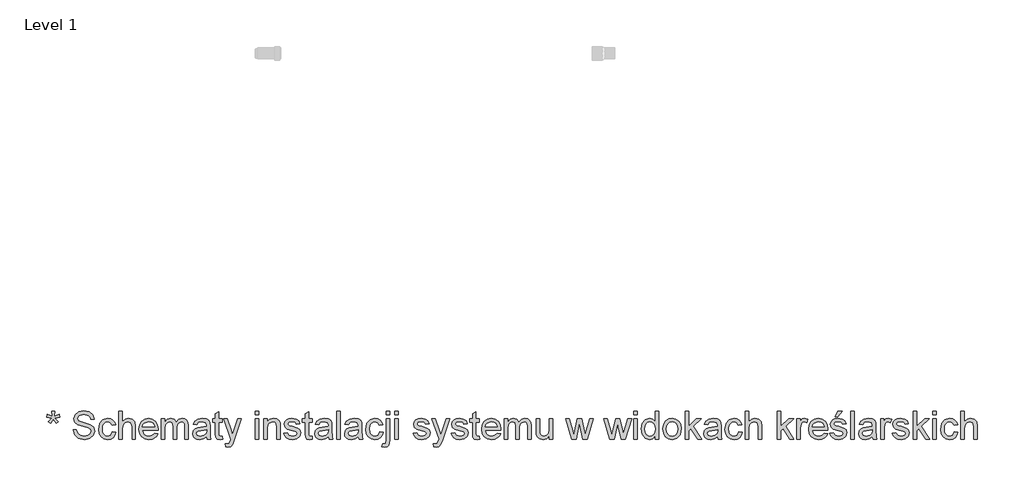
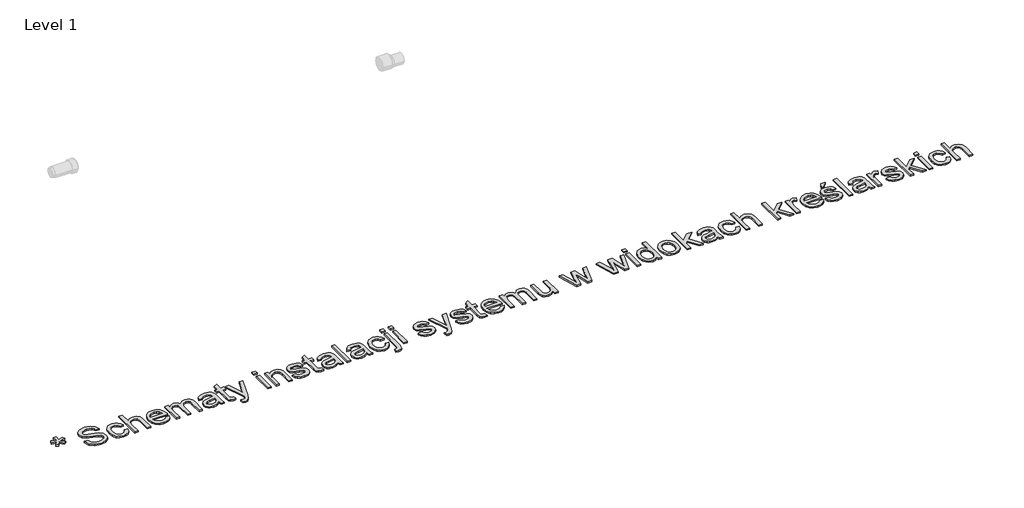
# One storey, part 2 of 3: 1 proxy.
"""IFC4 building model written with IfcOpenShell, lengths in millimetres."""

from ifc_helpers import new_model, si_unit, origin, origin_with_axes, place, context, project, spatial, polyline, outline, extrude, element, save

model = new_model("IFC4")

# Units and contexts
model_context = context("Model", 3, world=origin())
ifc_project = project(units=[si_unit("LENGTHUNIT", "METRE", prefix="MILLI")], contexts=[model_context])

# Site, building, storey
site = spatial("IfcSite", under=ifc_project)
building = spatial("IfcBuilding", under=site)
storey = spatial("IfcBuildingStorey", under=building, Name="Level 1", Elevation=0.0)

# Proxy
placement = place(None, origin())
element("IfcBuildingElementProxy", 1, Name="100mm Arial", ObjectType="100mm Arial", at=placement, inside=storey, context=model_context, shape_type="SweptSolid", body=[
    extrude(outline(polyline([(-18147.9582357, -3129.486268), (-18144.5982468, -3119.6270305), (-18127.6020986, -3126.3715338), (-18129.1226775, -3109.08108), (-18118.1352686, -3109.08108), (-18119.8765767, -3126.2979574), (-18102.6351739, -3119.6270305), (-18099.2997104, -3129.486268), (-18117.3749791, -3133.2141389), (-18104.8915168, -3145.7957031), (-18113.6225828, -3151.4610859), (-18123.8251768, -3137.1382135), (-18133.512736, -3151.4610859), (-18142.1702256, -3145.7957031), (-18130.0301198, -3133.2141389), (-18147.9582357, -3129.486268)])), origin_with_axes(), (0.0, 0.0, 1.0), 5.0),
    extrude(outline(polyline([(-18052.2108151, -3175.0055336), (-18039.6537763, -3175.0055336), (-18035.6070744, -3187.5748351), (-18025.7233114, -3195.5210862), (-18010.6646751, -3198.5499812), (-17997.5435506, -3196.2568501), (-17989.070002, -3189.9538053), (-17986.2863615, -3181.5293076), (-17988.3710262, -3173.6934211), (-17996.9058885, -3167.9912502), (-18015.1896236, -3163.1965215), (-18034.8713104, -3157.0038413), (-18045.552151, -3147.6596386), (-18049.0715554, -3135.1761762), (-18044.7182851, -3120.9636685), (-18032.0018308, -3110.9327527), (-18013.3870018, -3107.5114502), (-17993.5213741, -3111.0921683), (-17980.2776223, -3121.6135933), (-17975.2989526, -3137.3344172), (-17987.8559914, -3137.3344172), (-17990.1613852, -3129.8418873), (-17994.9683766, -3124.434022), (-18012.8964925, -3120.0684889), (-18030.8736593, -3124.384971), (-18036.5145166, -3134.8082942), (-18032.5168656, -3143.5148348), (-18012.0135757, -3150.5291181), (-17989.7935032, -3156.832163), (-17977.6411346, -3167.0102315), (-17973.7293228, -3181.2104765), (-17978.2297458, -3196.2323247), (-17991.1791921, -3207.1952081), (-18010.1741658, -3211.10702), (-18032.6027047, -3206.8886398), (-18046.790687, -3194.1844482), (-18052.2108151, -3175.0055336)])), origin_with_axes(), (0.0, 0.0, 1.0), 5.0),
    extrude(outline(polyline([(-17909.3744991, -3182.8536828), (-17896.8174603, -3184.4233126), (-17900.3184706, -3195.5915969), (-17906.897427, -3204.031423), (-17915.9350613, -3209.3381208), (-17926.8121056, -3211.10702), (-17940.1692878, -3208.639145), (-17950.6140707, -3201.2355198), (-17957.3555083, -3189.221107), (-17959.6026541, -3172.9208689), (-17955.7644187, -3152.0619598), (-17944.0657712, -3138.6587924), (-17926.9837839, -3134.1951576), (-17916.373454, -3135.7279992), (-17907.8907084, -3140.3265241), (-17901.805327, -3147.7454777), (-17898.3870901, -3157.7396052), (-17910.9441289, -3159.3092351), (-17916.7689272, -3149.9037188), (-17926.885682, -3146.7521963), (-17935.0005457, -3148.3034321), (-17941.4415463, -3152.9571393), (-17945.6445981, -3160.9647041), (-17947.0456154, -3172.5775124), (-17945.6752549, -3184.3466705), (-17941.5641737, -3192.3818265), (-17935.239669, -3197.0079425), (-17927.2290386, -3198.5499812), (-17915.3955011, -3194.699483), (-17909.3744991, -3182.8536828)])), origin_with_axes(), (0.0, 0.0, 1.0), 5.0),
    extrude(outline(polyline([(-17885.8300514, -3209.5373902), (-17885.8300514, -3109.08108), (-17873.2730126, -3109.08108), (-17873.2730126, -3146.0164323), (-17863.4812202, -3137.1504763), (-17851.4208221, -3134.1951576), (-17837.318679, -3137.4202564), (-17828.7592912, -3146.3352634), (-17826.1841172, -3162.8409022), (-17826.1841172, -3209.5373902), (-17838.741156, -3209.5373902), (-17838.741156, -3164.140752), (-17842.738807, -3150.8970001), (-17854.0695725, -3146.7521963), (-17864.3580056, -3149.5480995), (-17871.2251362, -3157.1264686), (-17873.2730126, -3170.3456949), (-17873.2730126, -3209.5373902), (-17885.8300514, -3209.5373902)])), origin_with_axes(), (0.0, 0.0, 1.0), 5.0),
    extrude(outline(polyline([(-17757.2675568, -3187.5625723), (-17744.9557727, -3189.1322022), (-17749.3918164, -3198.4089598), (-17756.4704791, -3205.3435354), (-17766.0323453, -3209.6661489), (-17777.9179995, -3211.10702), (-17792.6516734, -3208.6207509), (-17803.9885702, -3201.1619434), (-17811.2174514, -3189.2149756), (-17813.6270785, -3173.2642254), (-17811.1929259, -3156.7769807), (-17803.8904683, -3144.4468025), (-17792.7068557, -3136.7580688), (-17778.629238, -3134.1951576), (-17764.990013, -3136.7519374), (-17754.0915089, -3144.422277), (-17746.9454012, -3156.7279298), (-17744.5633652, -3173.190649), (-17744.6369416, -3176.5751634), (-17801.0700397, -3176.5751634), (-17798.8964702, -3185.9745484), (-17793.8472899, -3192.8845985), (-17786.5601607, -3197.1336356), (-17777.6727448, -3198.5499812), (-17765.3609607, -3195.9257563), (-17757.2675568, -3187.5625723)]), holes=[polyline([(-17801.0700397, -3164.0181246), (-17757.120404, -3164.0181246), (-17762.1481246, -3152.6383082), (-17769.4689763, -3148.2237243), (-17778.6782889, -3146.7521963), (-17794.1415954, -3151.4488231), (-17799.0068348, -3156.9394619), (-17801.0700397, -3164.0181246)])]), origin_with_axes(), (0.0, 0.0, 1.0), 5.0),
    extrude(outline(polyline([(-17732.0063265, -3209.5373902), (-17732.0063265, -3135.7647874), (-17719.4492877, -3135.7647874), (-17719.4492877, -3147.9048932), (-17710.8163235, -3137.9598166), (-17698.5290649, -3134.1951576), (-17685.9475007, -3138.033393), (-17679.0313192, -3148.78781), (-17669.2333954, -3137.8433207), (-17656.8602976, -3134.1951576), (-17647.4210587, -3135.7126708), (-17640.4404979, -3140.2652105), (-17636.1270815, -3147.975404), (-17634.689276, -3158.9658786), (-17634.689276, -3209.5373902), (-17647.2463148, -3209.5373902), (-17647.2463148, -3164.3614812), (-17648.4112744, -3153.8768443), (-17652.6296546, -3148.7142336), (-17659.8033535, -3146.7521963), (-17672.1519258, -3151.7799169), (-17675.8399429, -3158.3220851), (-17677.0692819, -3167.8931483), (-17677.0692819, -3209.5373902), (-17689.6263206, -3209.5373902), (-17689.6263206, -3162.9635296), (-17692.5325884, -3150.7988983), (-17702.0607321, -3146.7521963), (-17711.3558838, -3149.4499976), (-17717.5363013, -3157.3471978), (-17719.4492877, -3172.3322577), (-17719.4492877, -3209.5373902), (-17732.0063265, -3209.5373902)])), origin_with_axes(), (0.0, 0.0, 1.0), 5.0),
    extrude(outline(polyline([(-17568.7648225, -3200.1196111), (-17580.9417165, -3208.6299479), (-17594.3939348, -3211.10702), (-17604.8877687, -3209.6170979), (-17612.628619, -3205.1473317), (-17617.4018879, -3198.3599089), (-17618.9929775, -3189.9170171), (-17616.5894818, -3179.9842032), (-17610.2741743, -3172.7737161), (-17601.4817946, -3168.6534378), (-17590.617013, -3166.7649769), (-17568.8383989, -3162.4484948), (-17568.7648225, -3159.6525916), (-17572.2229132, -3150.3819653), (-17586.1043272, -3146.7521963), (-17598.8085187, -3149.1679548), (-17604.8663089, -3157.7396052), (-17617.4233477, -3156.1699754), (-17611.9909569, -3143.9072422), (-17601.0525989, -3136.7212806), (-17584.4856464, -3134.1951576), (-17569.2675945, -3136.426975), (-17560.6714186, -3142.0310441), (-17556.8209204, -3150.5536436), (-17556.2077837, -3161.5410525), (-17556.2077837, -3177.1637746), (-17555.5701216, -3198.9791769), (-17553.068524, -3209.5373902), (-17565.6255628, -3209.5373902), (-17568.7648225, -3200.1196111)]), holes=[polyline([(-17568.7648225, -3175.0055336), (-17589.0228577, -3178.8560318), (-17599.8263256, -3180.8916455), (-17604.7191561, -3184.2025834), (-17606.4359388, -3189.0341003), (-17602.6958052, -3195.8276545), (-17591.720659, -3198.5499812), (-17579.0164674, -3195.5456116), (-17570.8249616, -3188.2738108), (-17568.8383989, -3178.5617262), (-17568.7648225, -3175.0055336)])]), origin_with_axes(), (0.0, 0.0, 1.0), 5.0),
    extrude(outline(polyline([(-17512.258148, -3199.065016), (-17510.6885182, -3209.9052722), (-17520.0817718, -3211.10702), (-17530.6031968, -3209.0223554), (-17535.8516466, -3203.5531764), (-17537.3722255, -3189.3038804), (-17537.3722255, -3148.3218262), (-17546.7900046, -3148.3218262), (-17546.7900046, -3135.7647874), (-17537.3722255, -3135.7647874), (-17537.3722255, -3117.8366715), (-17524.8151868, -3110.4545061), (-17524.8151868, -3135.7647874), (-17512.258148, -3135.7647874), (-17512.258148, -3148.3218262), (-17524.8151868, -3148.3218262), (-17524.8151868, -3188.9359984), (-17524.1529992, -3195.4107216), (-17522.0070209, -3197.7038527), (-17517.727327, -3198.5499812), (-17512.258148, -3199.065016)])), origin_with_axes(), (0.0, 0.0, 1.0), 5.0),
    extrude(outline(polyline([(-17499.7011092, -3237.7907274), (-17501.2707391, -3225.6996725), (-17494.8941178, -3226.8033185), (-17488.9344295, -3225.4176296), (-17485.280135, -3221.5548687), (-17481.8465697, -3212.3087679), (-17480.8655511, -3209.26761), (-17507.5492585, -3135.7647874), (-17494.3055066, -3135.7647874), (-17480.1543126, -3176.7223162), (-17475.2246938, -3193.1053277), (-17470.2950751, -3178.6353026), (-17455.7514736, -3135.7647874), (-17442.6058236, -3135.7647874), (-17468.2839869, -3211.3032237), (-17474.9549137, -3227.6862353), (-17482.2389772, -3236.5399286), (-17492.0246383, -3239.3603572), (-17499.7011092, -3237.7907274)])), origin_with_axes(), (0.0, 0.0, 1.0), 5.0),
    extrude(outline(polyline([(-17392.9662797, -3121.6381188), (-17392.9662797, -3109.08108), (-17380.4092409, -3109.08108), (-17380.4092409, -3121.6381188), (-17392.9662797, -3121.6381188)])), origin_with_axes(), (0.0, 0.0, 1.0), 5.0),
    extrude(outline(polyline([(-17392.9662797, -3209.5373902), (-17392.9662797, -3135.7647874), (-17380.4092409, -3135.7647874), (-17380.4092409, -3209.5373902), (-17392.9662797, -3209.5373902)])), origin_with_axes(), (0.0, 0.0, 1.0), 5.0),
    extrude(outline(polyline([(-17361.5736828, -3209.5373902), (-17361.5736828, -3135.7647874), (-17349.016644, -3135.7647874), (-17349.016644, -3146.0654833), (-17339.4149239, -3137.162739), (-17326.3060622, -3134.1951576), (-17314.4479992, -3136.5863905), (-17306.3545953, -3142.8649099), (-17302.5899362, -3152.098748), (-17301.9277486, -3164.2388538), (-17301.9277486, -3209.5373902), (-17314.4847874, -3209.5373902), (-17314.4847874, -3165.931111), (-17315.9317899, -3154.8210748), (-17321.0453497, -3148.9472256), (-17329.6660511, -3146.7521963), (-17343.2899476, -3151.6818151), (-17347.5849699, -3158.8248571), (-17349.016644, -3170.3947459), (-17349.016644, -3209.5373902), (-17361.5736828, -3209.5373902)])), origin_with_axes(), (0.0, 0.0, 1.0), 5.0),
    extrude(outline(polyline([(-17289.3707099, -3187.5625723), (-17276.8136711, -3185.9929425), (-17271.0011356, -3195.3126197), (-17257.6838073, -3198.5499812), (-17244.8815139, -3195.5823998), (-17240.7121846, -3188.6171674), (-17244.9060394, -3182.9763101), (-17257.8309601, -3179.395592), (-17276.7400947, -3173.2519627), (-17284.9929141, -3166.0782638), (-17287.80108, -3155.9492462), (-17285.5447371, -3146.5927808), (-17279.3888451, -3139.4436074), (-17271.4058058, -3135.7279992), (-17260.6023378, -3134.1951576), (-17245.3229723, -3136.6599669), (-17235.6108876, -3143.3308938), (-17231.2944056, -3154.6003456), (-17243.8514443, -3156.1699754), (-17248.5725966, -3149.2415312), (-17259.6213192, -3146.7521963), (-17271.6387977, -3149.1311666), (-17275.2440413, -3154.673922), (-17273.7479878, -3158.3282164), (-17269.0636237, -3161.0995941), (-17258.2478931, -3163.77287), (-17239.8170051, -3169.6835074), (-17231.2576174, -3176.3789597), (-17228.1551459, -3187.2927922), (-17231.7971776, -3199.3102707), (-17242.30634, -3208.029074), (-17257.8554856, -3211.10702), (-17270.5167576, -3209.6232293), (-17279.7567271, -3205.1718572), (-17285.9248818, -3197.8019545), (-17289.3707099, -3187.5625723)])), origin_with_axes(), (0.0, 0.0, 1.0), 5.0),
    extrude(outline(polyline([(-17187.3447699, -3199.065016), (-17185.77514, -3209.9052722), (-17195.1683936, -3211.10702), (-17205.6898187, -3209.0223554), (-17210.9382685, -3203.5531764), (-17212.4588474, -3189.3038804), (-17212.4588474, -3148.3218262), (-17221.8766265, -3148.3218262), (-17221.8766265, -3135.7647874), (-17212.4588474, -3135.7647874), (-17212.4588474, -3117.8366715), (-17199.9018086, -3110.4545061), (-17199.9018086, -3135.7647874), (-17187.3447699, -3135.7647874), (-17187.3447699, -3148.3218262), (-17199.9018086, -3148.3218262), (-17199.9018086, -3188.9359984), (-17199.239621, -3195.4107216), (-17197.0936427, -3197.7038527), (-17192.8139489, -3198.5499812), (-17187.3447699, -3199.065016)])), origin_with_axes(), (0.0, 0.0, 1.0), 5.0),
    extrude(outline(polyline([(-17127.6988357, -3200.1196111), (-17139.8757298, -3208.6299479), (-17153.3279481, -3211.10702), (-17163.821782, -3209.6170979), (-17171.5626323, -3205.1473317), (-17176.3359012, -3198.3599089), (-17177.9269908, -3189.9170171), (-17175.5234951, -3179.9842032), (-17169.2081875, -3172.7737161), (-17160.4158078, -3168.6534378), (-17149.5510262, -3166.7649769), (-17127.7724121, -3162.4484948), (-17127.6988357, -3159.6525916), (-17131.1569265, -3150.3819653), (-17145.0383404, -3146.7521963), (-17157.742532, -3149.1679548), (-17163.8003222, -3157.7396052), (-17176.3573609, -3156.1699754), (-17170.9249702, -3143.9072422), (-17159.9866122, -3136.7212806), (-17143.4196596, -3134.1951576), (-17128.2016078, -3136.426975), (-17119.6054318, -3142.0310441), (-17115.7549336, -3150.5536436), (-17115.141797, -3161.5410525), (-17115.141797, -3177.1637746), (-17114.5041348, -3198.9791769), (-17112.0025373, -3209.5373902), (-17124.559576, -3209.5373902), (-17127.6988357, -3200.1196111)]), holes=[polyline([(-17127.6988357, -3175.0055336), (-17147.9568709, -3178.8560318), (-17158.7603388, -3180.8916455), (-17163.6531694, -3184.2025834), (-17165.369952, -3189.0341003), (-17161.6298184, -3195.8276545), (-17150.6546722, -3198.5499812), (-17137.9504807, -3195.5456116), (-17129.7589749, -3188.2738108), (-17127.7724121, -3178.5617262), (-17127.6988357, -3175.0055336)])]), origin_with_axes(), (0.0, 0.0, 1.0), 5.0),
    extrude(outline(polyline([(-17097.8758686, -3209.5373902), (-17097.8758686, -3109.08108), (-17085.3188299, -3109.08108), (-17085.3188299, -3209.5373902), (-17097.8758686, -3209.5373902)])), origin_with_axes(), (0.0, 0.0, 1.0), 5.0),
    extrude(outline(polyline([(-17019.3943763, -3200.1196111), (-17031.5712704, -3208.6299479), (-17045.0234887, -3211.10702), (-17055.5173226, -3209.6170979), (-17063.2581729, -3205.1473317), (-17068.0314418, -3198.3599089), (-17069.6225314, -3189.9170171), (-17067.2190357, -3179.9842032), (-17060.9037281, -3172.7737161), (-17052.1113484, -3168.6534378), (-17041.2465669, -3166.7649769), (-17019.4679527, -3162.4484948), (-17019.3943763, -3159.6525916), (-17022.8524671, -3150.3819653), (-17036.733881, -3146.7521963), (-17049.4380726, -3149.1679548), (-17055.4958628, -3157.7396052), (-17068.0529016, -3156.1699754), (-17062.6205108, -3143.9072422), (-17051.6821528, -3136.7212806), (-17035.1152003, -3134.1951576), (-17019.8971484, -3136.426975), (-17011.3009724, -3142.0310441), (-17007.4504742, -3150.5536436), (-17006.8373376, -3161.5410525), (-17006.8373376, -3177.1637746), (-17006.1996754, -3198.9791769), (-17003.6980779, -3209.5373902), (-17016.2551166, -3209.5373902), (-17019.3943763, -3200.1196111)]), holes=[polyline([(-17019.3943763, -3175.0055336), (-17039.6524115, -3178.8560318), (-17050.4558795, -3180.8916455), (-17055.34871, -3184.2025834), (-17057.0654926, -3189.0341003), (-17053.325359, -3195.8276545), (-17042.3502128, -3198.5499812), (-17029.6460213, -3195.5456116), (-17021.4545155, -3188.2738108), (-17019.4679527, -3178.5617262), (-17019.3943763, -3175.0055336)])]), origin_with_axes(), (0.0, 0.0, 1.0), 5.0),
    extrude(outline(polyline([(-16942.4825139, -3182.8536828), (-16929.9254751, -3184.4233126), (-16933.4264854, -3195.5915969), (-16940.0054418, -3204.031423), (-16949.0430761, -3209.3381208), (-16959.9201205, -3211.10702), (-16973.2773026, -3208.639145), (-16983.7220855, -3201.2355198), (-16990.4635231, -3189.221107), (-16992.710669, -3172.9208689), (-16988.8724335, -3152.0619598), (-16977.173786, -3138.6587924), (-16960.0917987, -3134.1951576), (-16949.4814688, -3135.7279992), (-16940.9987232, -3140.3265241), (-16934.9133418, -3147.7454777), (-16931.495105, -3157.7396052), (-16944.0521437, -3159.3092351), (-16949.876942, -3149.9037188), (-16959.9936969, -3146.7521963), (-16968.1085605, -3148.3034321), (-16974.5495611, -3152.9571393), (-16978.7526129, -3160.9647041), (-16980.1536302, -3172.5775124), (-16978.7832698, -3184.3466705), (-16974.6721885, -3192.3818265), (-16968.3476838, -3197.0079425), (-16960.3370534, -3198.5499812), (-16948.5035159, -3194.699483), (-16942.4825139, -3182.8536828)])), origin_with_axes(), (0.0, 0.0, 1.0), 5.0),
    extrude(outline(polyline([(-16918.9380662, -3121.6381188), (-16918.9380662, -3109.08108), (-16906.3810274, -3109.08108), (-16906.3810274, -3121.6381188), (-16918.9380662, -3121.6381188)])), origin_with_axes(), (0.0, 0.0, 1.0), 5.0),
    extrude(outline(polyline([(-16934.756992, -3237.8397783), (-16932.1082416, -3225.8958762), (-16926.344757, -3226.8033185), (-16920.7652134, -3224.3139836), (-16918.9380662, -3211.8673095), (-16918.9380662, -3135.7647874), (-16906.3810274, -3135.7647874), (-16906.3810274, -3213.4859902), (-16909.93722, -3232.4196503), (-16915.9459593, -3237.6251805), (-16924.9468054, -3239.3603572), (-16934.756992, -3237.8397783)])), origin_with_axes(), (0.0, 0.0, 1.0), 5.0),
    extrude(outline(polyline([(-16887.5454693, -3121.6381188), (-16887.5454693, -3109.08108), (-16874.9884305, -3109.08108), (-16874.9884305, -3121.6381188), (-16887.5454693, -3121.6381188)])), origin_with_axes(), (0.0, 0.0, 1.0), 5.0),
    extrude(outline(polyline([(-16887.5454693, -3209.5373902), (-16887.5454693, -3135.7647874), (-16874.9884305, -3135.7647874), (-16874.9884305, -3209.5373902), (-16887.5454693, -3209.5373902)])), origin_with_axes(), (0.0, 0.0, 1.0), 5.0),
    extrude(outline(polyline([(-16821.6210157, -3187.5625723), (-16809.063977, -3185.9929425), (-16803.2514414, -3195.3126197), (-16789.9341132, -3198.5499812), (-16777.1318198, -3195.5823998), (-16772.9624905, -3188.6171674), (-16777.1563452, -3182.9763101), (-16790.081266, -3179.395592), (-16808.9904006, -3173.2519627), (-16817.24322, -3166.0782638), (-16820.0513859, -3155.9492462), (-16817.795043, -3146.5927808), (-16811.6391509, -3139.4436074), (-16803.6561116, -3135.7279992), (-16792.8526437, -3134.1951576), (-16777.5732782, -3136.6599669), (-16767.8611935, -3143.3308938), (-16763.5447114, -3154.6003456), (-16776.1017502, -3156.1699754), (-16780.8229025, -3149.2415312), (-16791.8716251, -3146.7521963), (-16803.8891036, -3149.1311666), (-16807.4943471, -3154.673922), (-16805.9982937, -3158.3282164), (-16801.3139296, -3161.0995941), (-16790.4981989, -3163.77287), (-16772.067311, -3169.6835074), (-16763.5079232, -3176.3789597), (-16760.4054517, -3187.2927922), (-16764.0474835, -3199.3102707), (-16774.5566458, -3208.029074), (-16790.1057915, -3211.10702), (-16802.7670635, -3209.6232293), (-16812.0070329, -3205.1718572), (-16818.1751877, -3197.8019545), (-16821.6210157, -3187.5625723)])), origin_with_axes(), (0.0, 0.0, 1.0), 5.0),
    extrude(outline(polyline([(-16746.2787831, -3237.7907274), (-16747.848413, -3225.6996725), (-16741.4717917, -3226.8033185), (-16735.5121034, -3225.4176296), (-16731.8578089, -3221.5548687), (-16728.4242436, -3212.3087679), (-16727.443225, -3209.26761), (-16754.1269324, -3135.7647874), (-16740.8831805, -3135.7647874), (-16726.7319864, -3176.7223162), (-16721.8023677, -3193.1053277), (-16716.872749, -3178.6353026), (-16702.3291474, -3135.7647874), (-16689.1834975, -3135.7647874), (-16714.8616607, -3211.3032237), (-16721.5325876, -3227.6862353), (-16728.8166511, -3236.5399286), (-16738.6023122, -3239.3603572), (-16746.2787831, -3237.7907274)])), origin_with_axes(), (0.0, 0.0, 1.0), 5.0),
    extrude(outline(polyline([(-16683.4935893, -3187.5625723), (-16670.9365505, -3185.9929425), (-16665.124015, -3195.3126197), (-16651.8066868, -3198.5499812), (-16639.0043933, -3195.5823998), (-16634.835064, -3188.6171674), (-16639.0289188, -3182.9763101), (-16651.9538396, -3179.395592), (-16670.8629741, -3173.2519627), (-16679.1157935, -3166.0782638), (-16681.9239594, -3155.9492462), (-16679.6676165, -3146.5927808), (-16673.5117245, -3139.4436074), (-16665.5286852, -3135.7279992), (-16654.7252173, -3134.1951576), (-16639.4458517, -3136.6599669), (-16629.733767, -3143.3308938), (-16625.417285, -3154.6003456), (-16637.9743237, -3156.1699754), (-16642.695476, -3149.2415312), (-16653.7441986, -3146.7521963), (-16665.7616771, -3149.1311666), (-16669.3669207, -3154.673922), (-16667.8708672, -3158.3282164), (-16663.1865031, -3161.0995941), (-16652.3707725, -3163.77287), (-16633.9398845, -3169.6835074), (-16625.3804968, -3176.3789597), (-16622.2780253, -3187.2927922), (-16625.920057, -3199.3102707), (-16636.4292194, -3208.029074), (-16651.978365, -3211.10702), (-16664.639637, -3209.6232293), (-16673.8796065, -3205.1718572), (-16680.0477613, -3197.8019545), (-16683.4935893, -3187.5625723)])), origin_with_axes(), (0.0, 0.0, 1.0), 5.0),
    extrude(outline(polyline([(-16581.4676493, -3199.065016), (-16579.8980194, -3209.9052722), (-16589.291273, -3211.10702), (-16599.8126981, -3209.0223554), (-16605.0611479, -3203.5531764), (-16606.5817268, -3189.3038804), (-16606.5817268, -3148.3218262), (-16615.9995059, -3148.3218262), (-16615.9995059, -3135.7647874), (-16606.5817268, -3135.7647874), (-16606.5817268, -3117.8366715), (-16594.0246881, -3110.4545061), (-16594.0246881, -3135.7647874), (-16581.4676493, -3135.7647874), (-16581.4676493, -3148.3218262), (-16594.0246881, -3148.3218262), (-16594.0246881, -3188.9359984), (-16593.3625005, -3195.4107216), (-16591.2165222, -3197.7038527), (-16586.9368283, -3198.5499812), (-16581.4676493, -3199.065016)])), origin_with_axes(), (0.0, 0.0, 1.0), 5.0),
    extrude(outline(polyline([(-16517.2599784, -3187.5625723), (-16504.9481943, -3189.1322022), (-16509.384238, -3198.4089598), (-16516.4629007, -3205.3435354), (-16526.0247669, -3209.6661489), (-16537.9104211, -3211.10702), (-16552.644095, -3208.6207509), (-16563.9809918, -3201.1619434), (-16571.209873, -3189.2149756), (-16573.6195001, -3173.2642254), (-16571.1853475, -3156.7769807), (-16563.8828899, -3144.4468025), (-16552.6992773, -3136.7580688), (-16538.6216596, -3134.1951576), (-16524.9824346, -3136.7519374), (-16514.0839305, -3144.422277), (-16506.9378227, -3156.7279298), (-16504.5557868, -3173.190649), (-16504.6293632, -3176.5751634), (-16561.0624613, -3176.5751634), (-16558.8888918, -3185.9745484), (-16553.8397114, -3192.8845985), (-16546.5525823, -3197.1336356), (-16537.6651664, -3198.5499812), (-16525.3533823, -3195.9257563), (-16517.2599784, -3187.5625723)]), holes=[polyline([(-16561.0624613, -3164.0181246), (-16517.1128256, -3164.0181246), (-16522.1405462, -3152.6383082), (-16529.4613979, -3148.2237243), (-16538.6707105, -3146.7521963), (-16554.134017, -3151.4488231), (-16558.9992564, -3156.9394619), (-16561.0624613, -3164.0181246)])]), origin_with_axes(), (0.0, 0.0, 1.0), 5.0),
    extrude(outline(polyline([(-16491.9987481, -3209.5373902), (-16491.9987481, -3135.7647874), (-16479.4417093, -3135.7647874), (-16479.4417093, -3147.9048932), (-16470.8087451, -3137.9598166), (-16458.5214865, -3134.1951576), (-16445.9399223, -3138.033393), (-16439.0237407, -3148.78781), (-16429.2258169, -3137.8433207), (-16416.8527192, -3134.1951576), (-16407.4134803, -3135.7126708), (-16400.4329195, -3140.2652105), (-16396.1195031, -3147.975404), (-16394.6816976, -3158.9658786), (-16394.6816976, -3209.5373902), (-16407.2387364, -3209.5373902), (-16407.2387364, -3164.3614812), (-16408.403696, -3153.8768443), (-16412.6220762, -3148.7142336), (-16419.7957751, -3146.7521963), (-16432.1443474, -3151.7799169), (-16435.8323644, -3158.3220851), (-16437.0617034, -3167.8931483), (-16437.0617034, -3209.5373902), (-16449.6187422, -3209.5373902), (-16449.6187422, -3162.9635296), (-16452.52501, -3150.7988983), (-16462.0531536, -3146.7521963), (-16471.3483054, -3149.4499976), (-16477.5287229, -3157.3471978), (-16479.4417093, -3172.3322577), (-16479.4417093, -3209.5373902), (-16491.9987481, -3209.5373902)])), origin_with_axes(), (0.0, 0.0, 1.0), 5.0),
    extrude(outline(polyline([(-16328.7572441, -3209.5373902), (-16328.7572441, -3196.8577241), (-16338.5919561, -3207.544696), (-16351.418775, -3211.10702), (-16363.227787, -3208.6054224), (-16371.3702418, -3202.3269031), (-16375.1103755, -3193.0808023), (-16375.8461394, -3181.4066803), (-16375.8461394, -3135.7647874), (-16363.2891007, -3135.7647874), (-16363.2891007, -3175.4960429), (-16362.5288112, -3188.2983363), (-16357.5624043, -3195.8153917), (-16348.2059389, -3198.5499812), (-16337.721302, -3195.7540781), (-16330.7928578, -3188.1389208), (-16328.7572441, -3174.1471422), (-16328.7572441, -3135.7647874), (-16316.2002053, -3135.7647874), (-16316.2002053, -3209.5373902), (-16328.7572441, -3209.5373902)])), origin_with_axes(), (0.0, 0.0, 1.0), 5.0),
    extrude(outline(polyline([(-16247.4553231, -3209.5373902), (-16269.8961248, -3135.7647874), (-16256.8485767, -3135.7647874), (-16244.1198597, -3178.8069808), (-16240.3184124, -3194.1844482), (-16237.2036782, -3179.3710666), (-16227.0746606, -3135.7647874), (-16212.1141261, -3135.7647874), (-16202.0341595, -3179.2484392), (-16199.2627818, -3192.6638693), (-16195.2896562, -3178.5126752), (-16182.5364137, -3135.7647874), (-16169.4398147, -3135.7647874), (-16192.0522947, -3209.5373902), (-16207.2335583, -3209.5373902), (-16216.8720666, -3166.2744675), (-16219.6679698, -3152.785461), (-16232.1023812, -3209.5373902), (-16247.4553231, -3209.5373902)])), origin_with_axes(), (0.0, 0.0, 1.0), 5.0),
    extrude(outline(polyline([(-16109.3278967, -3209.5373902), (-16131.7686984, -3135.7647874), (-16118.7211503, -3135.7647874), (-16105.9924332, -3178.8069808), (-16102.190986, -3194.1844482), (-16099.0762517, -3179.3710666), (-16088.9472341, -3135.7647874), (-16073.9866997, -3135.7647874), (-16063.906733, -3179.2484392), (-16061.1353553, -3192.6638693), (-16057.1622298, -3178.5126752), (-16044.4089873, -3135.7647874), (-16031.3123882, -3135.7647874), (-16053.9248682, -3209.5373902), (-16069.1061319, -3209.5373902), (-16078.7446401, -3166.2744675), (-16081.5405433, -3152.785461), (-16093.9749547, -3209.5373902), (-16109.3278967, -3209.5373902)])), origin_with_axes(), (0.0, 0.0, 1.0), 5.0),
    extrude(outline(polyline([(-16022.6794241, -3121.6381188), (-16022.6794241, -3109.08108), (-16010.1223853, -3109.08108), (-16010.1223853, -3121.6381188), (-16022.6794241, -3121.6381188)])), origin_with_axes(), (0.0, 0.0, 1.0), 5.0),
    extrude(outline(polyline([(-16022.6794241, -3209.5373902), (-16022.6794241, -3135.7647874), (-16010.1223853, -3135.7647874), (-16010.1223853, -3209.5373902), (-16022.6794241, -3209.5373902)])), origin_with_axes(), (0.0, 0.0, 1.0), 5.0),
    extrude(outline(polyline([(-15945.7675616, -3209.5373902), (-15945.7675616, -3197.6915899), (-15954.0755633, -3207.7531625), (-15965.559613, -3211.10702), (-15981.1087586, -3206.2509777), (-15992.0961675, -3192.7006575), (-15995.9957167, -3172.7246652), (-15992.4027359, -3152.7364101), (-15981.6360561, -3138.9776235), (-15965.6086639, -3134.1951576), (-15954.0326438, -3137.6164601), (-15945.7675616, -3146.5069417), (-15945.7675616, -3109.08108), (-15933.2105228, -3109.08108), (-15933.2105228, -3209.5373902), (-15945.7675616, -3209.5373902)]), holes=[polyline([(-15983.4386779, -3172.6756143), (-15982.0223322, -3184.0339709), (-15977.7732952, -3192.1120463), (-15971.599009, -3196.9404975), (-15964.406916, -3198.5499812), (-15957.2178887, -3197.0140739), (-15951.1999524, -3192.4063519), (-15947.1256593, -3184.6409761), (-15945.7675616, -3173.6321074), (-15947.1501848, -3161.5962348), (-15951.2980543, -3153.2514449), (-15957.4692747, -3148.3770085), (-15964.9219508, -3146.7521963), (-15972.1876202, -3148.3126291), (-15978.1411772, -3152.9939275), (-15982.1143027, -3161.0352148), (-15983.4386779, -3172.6756143)])]), origin_with_axes(), (0.0, 0.0, 1.0), 5.0),
    extrude(outline(polyline([(-15917.5142244, -3172.6510888), (-15914.798029, -3154.8639943), (-15906.6494428, -3142.3621378), (-15896.5817389, -3136.2369026), (-15884.5274722, -3134.1951576), (-15871.3358369, -3136.6814267), (-15860.7990835, -3144.1402342), (-15853.892099, -3155.9829687), (-15851.5897709, -3171.6210192), (-15855.6609983, -3193.963719), (-15867.5190612, -3206.6065969), (-15884.5274722, -3211.10702), (-15897.8785229, -3208.6299479), (-15908.4030136, -3201.1987316), (-15915.2364217, -3189.1076767), (-15917.5142244, -3172.6510888)]), holes=[polyline([(-15904.9571856, -3172.6265633), (-15903.5040517, -3183.9910513), (-15899.1446501, -3192.0875209), (-15892.5840878, -3196.9343662), (-15884.5274722, -3198.5499812), (-15876.5076447, -3196.9251691), (-15869.9593451, -3192.0507327), (-15865.5999435, -3183.8469642), (-15864.1468096, -3172.2341559), (-15865.6091406, -3161.2007617), (-15869.9961333, -3153.2146567), (-15876.5536299, -3148.3678114), (-15884.5274722, -3146.7521963), (-15892.5840878, -3148.3616801), (-15899.1446501, -3153.1901312), (-15903.5040517, -3161.2682067), (-15904.9571856, -3172.6265633)])]), origin_with_axes(), (0.0, 0.0, 1.0), 5.0),
    extrude(outline(polyline([(-15837.4631022, -3209.5373902), (-15837.4631022, -3109.08108), (-15824.9060635, -3109.08108), (-15824.9060635, -3163.0616314), (-15796.7508281, -3135.7647874), (-15779.3867979, -3135.7647874), (-15807.8853898, -3163.404988), (-15777.8171681, -3209.5373902), (-15792.483397, -3209.5373902), (-15816.886236, -3172.136054), (-15824.9060635, -3179.9106268), (-15824.9060635, -3209.5373902), (-15837.4631022, -3209.5373902)])), origin_with_axes(), (0.0, 0.0, 1.0), 5.0),
    extrude(outline(polyline([(-15719.7408638, -3200.1196111), (-15731.9177578, -3208.6299479), (-15745.3699761, -3211.10702), (-15755.86381, -3209.6170979), (-15763.6046603, -3205.1473317), (-15768.3779292, -3198.3599089), (-15769.9690189, -3189.9170171), (-15767.5655232, -3179.9842032), (-15761.2502156, -3172.7737161), (-15752.4578359, -3168.6534378), (-15741.5930543, -3166.7649769), (-15719.8144402, -3162.4484948), (-15719.7408638, -3159.6525916), (-15723.1989545, -3150.3819653), (-15737.0803685, -3146.7521963), (-15749.7845601, -3149.1679548), (-15755.8423502, -3157.7396052), (-15768.399389, -3156.1699754), (-15762.9669982, -3143.9072422), (-15752.0286402, -3136.7212806), (-15735.4616877, -3134.1951576), (-15720.2436358, -3136.426975), (-15711.6474599, -3142.0310441), (-15707.7969617, -3150.5536436), (-15707.183825, -3161.5410525), (-15707.183825, -3177.1637746), (-15706.5461629, -3198.9791769), (-15704.0445653, -3209.5373902), (-15716.6016041, -3209.5373902), (-15719.7408638, -3200.1196111)]), holes=[polyline([(-15719.7408638, -3175.0055336), (-15739.998899, -3178.8560318), (-15750.8023669, -3180.8916455), (-15755.6951974, -3184.2025834), (-15757.4119801, -3189.0341003), (-15753.6718465, -3195.8276545), (-15742.6967003, -3198.5499812), (-15729.9925087, -3195.5456116), (-15721.801003, -3188.2738108), (-15719.8144402, -3178.5617262), (-15719.7408638, -3175.0055336)])]), origin_with_axes(), (0.0, 0.0, 1.0), 5.0),
    extrude(outline(polyline([(-15642.8290013, -3182.8536828), (-15630.2719626, -3184.4233126), (-15633.7729729, -3195.5915969), (-15640.3519292, -3204.031423), (-15649.3895636, -3209.3381208), (-15660.2666079, -3211.10702), (-15673.62379, -3208.639145), (-15684.068573, -3201.2355198), (-15690.8100105, -3189.221107), (-15693.0571564, -3172.9208689), (-15689.2189209, -3152.0619598), (-15677.5202735, -3138.6587924), (-15660.4382862, -3134.1951576), (-15649.8279563, -3135.7279992), (-15641.3452106, -3140.3265241), (-15635.2598293, -3147.7454777), (-15631.8415924, -3157.7396052), (-15644.3986312, -3159.3092351), (-15650.2234294, -3149.9037188), (-15660.3401843, -3146.7521963), (-15668.455048, -3148.3034321), (-15674.8960486, -3152.9571393), (-15679.0991004, -3160.9647041), (-15680.5001176, -3172.5775124), (-15679.1297572, -3184.3466705), (-15675.0186759, -3192.3818265), (-15668.6941713, -3197.0079425), (-15660.6835408, -3198.5499812), (-15648.8500033, -3194.699483), (-15642.8290013, -3182.8536828)])), origin_with_axes(), (0.0, 0.0, 1.0), 5.0),
    extrude(outline(polyline([(-15619.2845536, -3209.5373902), (-15619.2845536, -3109.08108), (-15606.7275149, -3109.08108), (-15606.7275149, -3146.0164323), (-15596.9357224, -3137.1504763), (-15584.8753243, -3134.1951576), (-15570.7731812, -3137.4202564), (-15562.2137934, -3146.3352634), (-15559.6386195, -3162.8409022), (-15559.6386195, -3209.5373902), (-15572.1956582, -3209.5373902), (-15572.1956582, -3164.140752), (-15576.1933093, -3150.8970001), (-15587.5240747, -3146.7521963), (-15597.8125078, -3149.5480995), (-15604.6796384, -3157.1264686), (-15606.7275149, -3170.3456949), (-15606.7275149, -3209.5373902), (-15619.2845536, -3209.5373902)])), origin_with_axes(), (0.0, 0.0, 1.0), 5.0),
    extrude(outline(polyline([(-15503.131945, -3209.5373902), (-15503.131945, -3109.08108), (-15490.5749063, -3109.08108), (-15490.5749063, -3163.0616314), (-15462.4196709, -3135.7647874), (-15445.0556407, -3135.7647874), (-15473.5542326, -3163.404988), (-15443.4860109, -3209.5373902), (-15458.1522397, -3209.5373902), (-15482.5550788, -3172.136054), (-15490.5749063, -3179.9106268), (-15490.5749063, -3209.5373902), (-15503.131945, -3209.5373902)])), origin_with_axes(), (0.0, 0.0, 1.0), 5.0),
    extrude(outline(polyline([(-15432.4986019, -3209.5373902), (-15432.4986019, -3135.7647874), (-15421.511193, -3135.7647874), (-15421.511193, -3146.6786199), (-15413.7120947, -3136.6231787), (-15405.8639455, -3134.1951576), (-15393.2578558, -3138.0701812), (-15397.4517105, -3149.3273703), (-15406.2808784, -3146.7521963), (-15413.3810009, -3149.2292684), (-15417.9059495, -3156.096399), (-15419.9415632, -3170.7626279), (-15419.9415632, -3209.5373902), (-15432.4986019, -3209.5373902)])), origin_with_axes(), (0.0, 0.0, 1.0), 5.0),
    extrude(outline(polyline([(-15333.7590744, -3187.5625723), (-15321.4472903, -3189.1322022), (-15325.8833341, -3198.4089598), (-15332.9619968, -3205.3435354), (-15342.523863, -3209.6661489), (-15354.4095171, -3211.10702), (-15369.143191, -3208.6207509), (-15380.4800878, -3201.1619434), (-15387.708969, -3189.2149756), (-15390.1185961, -3173.2642254), (-15387.6844436, -3156.7769807), (-15380.381986, -3144.4468025), (-15369.1983733, -3136.7580688), (-15355.1207556, -3134.1951576), (-15341.4815307, -3136.7519374), (-15330.5830265, -3144.422277), (-15323.4369188, -3156.7279298), (-15321.0548829, -3173.190649), (-15321.1284593, -3176.5751634), (-15377.5615573, -3176.5751634), (-15375.3879879, -3185.9745484), (-15370.3388075, -3192.8845985), (-15363.0516783, -3197.1336356), (-15354.1642624, -3198.5499812), (-15341.8524783, -3195.9257563), (-15333.7590744, -3187.5625723)]), holes=[polyline([(-15377.5615573, -3164.0181246), (-15333.6119216, -3164.0181246), (-15338.6396422, -3152.6383082), (-15345.9604939, -3148.2237243), (-15355.1698066, -3146.7521963), (-15370.6331131, -3151.4488231), (-15375.4983525, -3156.9394619), (-15377.5615573, -3164.0181246)])]), origin_with_axes(), (0.0, 0.0, 1.0), 5.0),
    extrude(outline(polyline([(-15313.2067336, -3187.5625723), (-15300.6496949, -3185.9929425), (-15294.8371594, -3195.3126197), (-15281.5198311, -3198.5499812), (-15268.7175377, -3195.5823998), (-15264.5482084, -3188.6171674), (-15268.7420632, -3182.9763101), (-15281.6669839, -3179.395592), (-15300.5761185, -3173.2519627), (-15308.8289379, -3166.0782638), (-15311.6371038, -3155.9492462), (-15309.3807609, -3146.5927808), (-15303.2248688, -3139.4436074), (-15295.2418295, -3135.7279992), (-15284.4383616, -3134.1951576), (-15269.1589961, -3136.6599669), (-15259.4469114, -3143.3308938), (-15255.1304293, -3154.6003456), (-15267.6874681, -3156.1699754), (-15272.4086204, -3149.2415312), (-15283.457343, -3146.7521963), (-15295.4748215, -3149.1311666), (-15299.080065, -3154.673922), (-15297.5840116, -3158.3282164), (-15292.8996475, -3161.0995941), (-15282.0839169, -3163.77287), (-15263.6530289, -3169.6835074), (-15255.0936411, -3176.3789597), (-15251.9911696, -3187.2927922), (-15255.6332014, -3199.3102707), (-15266.1423637, -3208.029074), (-15281.6915094, -3211.10702), (-15294.3527814, -3209.6232293), (-15303.5927508, -3205.1718572), (-15309.7609056, -3197.8019545), (-15313.2067336, -3187.5625723)])), origin_with_axes(), (0.0, 0.0, 1.0), 5.0),
    extrude(outline(polyline([(-15294.3711755, -3127.9166382), (-15284.9533964, -3109.08108), (-15269.257098, -3109.08108), (-15284.9533964, -3127.9166382), (-15294.3711755, -3127.9166382)])), origin_with_axes(), (0.0, 0.0, 1.0), 5.0),
    extrude(outline(polyline([(-15237.864501, -3209.5373902), (-15237.864501, -3109.08108), (-15225.3074623, -3109.08108), (-15225.3074623, -3209.5373902), (-15237.864501, -3209.5373902)])), origin_with_axes(), (0.0, 0.0, 1.0), 5.0),
    extrude(outline(polyline([(-15159.3830087, -3200.1196111), (-15171.5599028, -3208.6299479), (-15185.0121211, -3211.10702), (-15195.505955, -3209.6170979), (-15203.2468053, -3205.1473317), (-15208.0200742, -3198.3599089), (-15209.6111638, -3189.9170171), (-15207.2076681, -3179.9842032), (-15200.8923605, -3172.7737161), (-15192.0999808, -3168.6534378), (-15181.2351992, -3166.7649769), (-15159.4565851, -3162.4484948), (-15159.3830087, -3159.6525916), (-15162.8410995, -3150.3819653), (-15176.7225134, -3146.7521963), (-15189.426705, -3149.1679548), (-15195.4844952, -3157.7396052), (-15208.041534, -3156.1699754), (-15202.6091432, -3143.9072422), (-15191.6707852, -3136.7212806), (-15175.1038327, -3134.1951576), (-15159.8857808, -3136.426975), (-15151.2896048, -3142.0310441), (-15147.4391066, -3150.5536436), (-15146.82597, -3161.5410525), (-15146.82597, -3177.1637746), (-15146.1883078, -3198.9791769), (-15143.6867103, -3209.5373902), (-15156.243749, -3209.5373902), (-15159.3830087, -3200.1196111)]), holes=[polyline([(-15159.3830087, -3175.0055336), (-15179.6410439, -3178.8560318), (-15190.4445119, -3180.8916455), (-15195.3373424, -3184.2025834), (-15197.054125, -3189.0341003), (-15193.3139914, -3195.8276545), (-15182.3388452, -3198.5499812), (-15169.6346537, -3195.5456116), (-15161.4431479, -3188.2738108), (-15159.4565851, -3178.5617262), (-15159.3830087, -3175.0055336)])]), origin_with_axes(), (0.0, 0.0, 1.0), 5.0),
    extrude(outline(polyline([(-15129.5600417, -3209.5373902), (-15129.5600417, -3135.7647874), (-15118.5726327, -3135.7647874), (-15118.5726327, -3146.6786199), (-15110.7735344, -3136.6231787), (-15102.9253852, -3134.1951576), (-15090.3192955, -3138.0701812), (-15094.5131502, -3149.3273703), (-15103.3423181, -3146.7521963), (-15110.4424406, -3149.2292684), (-15114.9673892, -3156.096399), (-15117.0030029, -3170.7626279), (-15117.0030029, -3209.5373902), (-15129.5600417, -3209.5373902)])), origin_with_axes(), (0.0, 0.0, 1.0), 5.0),
    extrude(outline(polyline([(-15087.1800358, -3187.5625723), (-15074.622997, -3185.9929425), (-15068.8104615, -3195.3126197), (-15055.4931333, -3198.5499812), (-15042.6908399, -3195.5823998), (-15038.5215106, -3188.6171674), (-15042.7153653, -3182.9763101), (-15055.6402861, -3179.395592), (-15074.5494206, -3173.2519627), (-15082.8022401, -3166.0782638), (-15085.610406, -3155.9492462), (-15083.3540631, -3146.5927808), (-15077.198171, -3139.4436074), (-15069.2151317, -3135.7279992), (-15058.4116638, -3134.1951576), (-15043.1322983, -3136.6599669), (-15033.4202136, -3143.3308938), (-15029.1037315, -3154.6003456), (-15041.6607703, -3156.1699754), (-15046.3819225, -3149.2415312), (-15057.4306451, -3146.7521963), (-15069.4481236, -3149.1311666), (-15073.0533672, -3154.673922), (-15071.5573137, -3158.3282164), (-15066.8729497, -3161.0995941), (-15056.057219, -3163.77287), (-15037.6263311, -3169.6835074), (-15029.0669433, -3176.3789597), (-15025.9644718, -3187.2927922), (-15029.6065036, -3199.3102707), (-15040.1156659, -3208.029074), (-15055.6648116, -3211.10702), (-15068.3260836, -3209.6232293), (-15077.566053, -3205.1718572), (-15083.7342078, -3197.8019545), (-15087.1800358, -3187.5625723)])), origin_with_axes(), (0.0, 0.0, 1.0), 5.0),
    extrude(outline(polyline([(-15011.8378032, -3209.5373902), (-15011.8378032, -3109.08108), (-14999.2807644, -3109.08108), (-14999.2807644, -3163.0616314), (-14971.1255291, -3135.7647874), (-14953.7614989, -3135.7647874), (-14982.2600908, -3163.404988), (-14952.191869, -3209.5373902), (-14966.8580979, -3209.5373902), (-14991.2609369, -3172.136054), (-14999.2807644, -3179.9106268), (-14999.2807644, -3209.5373902), (-15011.8378032, -3209.5373902)])), origin_with_axes(), (0.0, 0.0, 1.0), 5.0),
    extrude(outline(polyline([(-14941.2044601, -3121.6381188), (-14941.2044601, -3109.08108), (-14928.6474214, -3109.08108), (-14928.6474214, -3121.6381188), (-14941.2044601, -3121.6381188)])), origin_with_axes(), (0.0, 0.0, 1.0), 5.0),
    extrude(outline(polyline([(-14941.2044601, -3209.5373902), (-14941.2044601, -3135.7647874), (-14928.6474214, -3135.7647874), (-14928.6474214, -3209.5373902), (-14941.2044601, -3209.5373902)])), origin_with_axes(), (0.0, 0.0, 1.0), 5.0),
    extrude(outline(polyline([(-14862.7229678, -3182.8536828), (-14850.165929, -3184.4233126), (-14853.6669394, -3195.5915969), (-14860.2458957, -3204.031423), (-14869.2835301, -3209.3381208), (-14880.1605744, -3211.10702), (-14893.5177565, -3208.639145), (-14903.9625395, -3201.2355198), (-14910.703977, -3189.221107), (-14912.9511229, -3172.9208689), (-14909.1128874, -3152.0619598), (-14897.41424, -3138.6587924), (-14880.3322527, -3134.1951576), (-14869.7219228, -3135.7279992), (-14861.2391771, -3140.3265241), (-14855.1537958, -3147.7454777), (-14851.7355589, -3157.7396052), (-14864.2925977, -3159.3092351), (-14870.1173959, -3149.9037188), (-14880.2341508, -3146.7521963), (-14888.3490145, -3148.3034321), (-14894.7900151, -3152.9571393), (-14898.9930669, -3160.9647041), (-14900.3940841, -3172.5775124), (-14899.0237237, -3184.3466705), (-14894.9126424, -3192.3818265), (-14888.5881378, -3197.0079425), (-14880.5775073, -3198.5499812), (-14868.7439698, -3194.699483), (-14862.7229678, -3182.8536828)])), origin_with_axes(), (0.0, 0.0, 1.0), 5.0),
    extrude(outline(polyline([(-14839.1785201, -3209.5373902), (-14839.1785201, -3109.08108), (-14826.6214814, -3109.08108), (-14826.6214814, -3146.0164323), (-14816.8296889, -3137.1504763), (-14804.7692908, -3134.1951576), (-14790.6671477, -3137.4202564), (-14782.1077599, -3146.3352634), (-14779.532586, -3162.8409022), (-14779.532586, -3209.5373902), (-14792.0896247, -3209.5373902), (-14792.0896247, -3164.140752), (-14796.0872758, -3150.8970001), (-14807.4180412, -3146.7521963), (-14817.7064743, -3149.5480995), (-14824.5736049, -3157.1264686), (-14826.6214814, -3170.3456949), (-14826.6214814, -3209.5373902), (-14839.1785201, -3209.5373902)])), origin_with_axes(), (0.0, 0.0, 1.0), 5.0),
])

save(model, "model.ifc")
